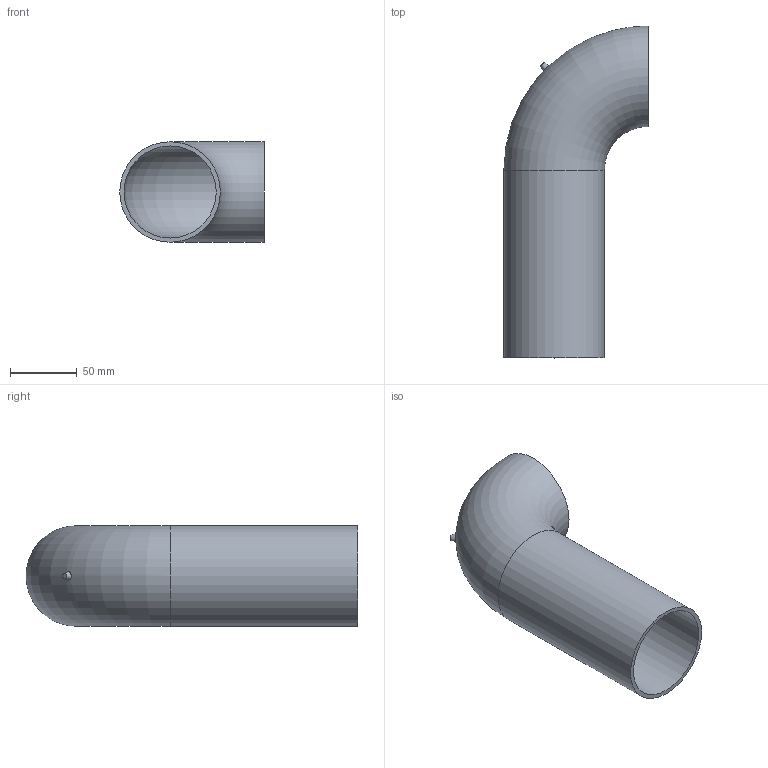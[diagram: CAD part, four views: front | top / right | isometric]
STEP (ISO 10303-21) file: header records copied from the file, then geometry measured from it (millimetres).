
FILE_DESCRIPTION(/* description */ (''),/* implementation_level */ '2;1');
FILE_NAME(/* name */ 'Z:\Geberit\Export\NewStep\PE Bogen Einzelteil_Ipart\stp\365055.stp',/* time_stamp */ '2014-04-02T11:56:39+02:00',/* author */ ('bruh'),/* organization */ (''),/* preprocessor_version */ 'ST-DEVELOPER v15.2',/* originating_system */ 'Autodesk Inventor 2014',/* authorisation */ '');
FILE_SCHEMA (('AUTOMOTIVE_DESIGN { 1 0 10303 214 3 1 1 }'));
Length unit declared in the file: millimetre
Products named in the file (1): 365055
Bounding box: 108.17 x 248.68 x 75.35 mm (x, y, z)
Volume: 179593.2 mm3; surface area: 115453.7 mm2
Topology: 1 solids, 1 shells, 8 faces, 16 edges, 10 vertices
Faces by surface type: plane 3, cylinder 2, torus 2, cone 1
Full cylindrical faces by diameter (mm): 69.05 x1, 75.35 x1
Entity records: 239 total; most frequent: CARTESIAN_POINT 70, DIRECTION 32, EDGE_LOOP 16, ORIENTED_EDGE 16, AXIS2_PLACEMENT_3D 16, FACE_BOUND 10, STYLED_ITEM 9, VERTEX_POINT 8
